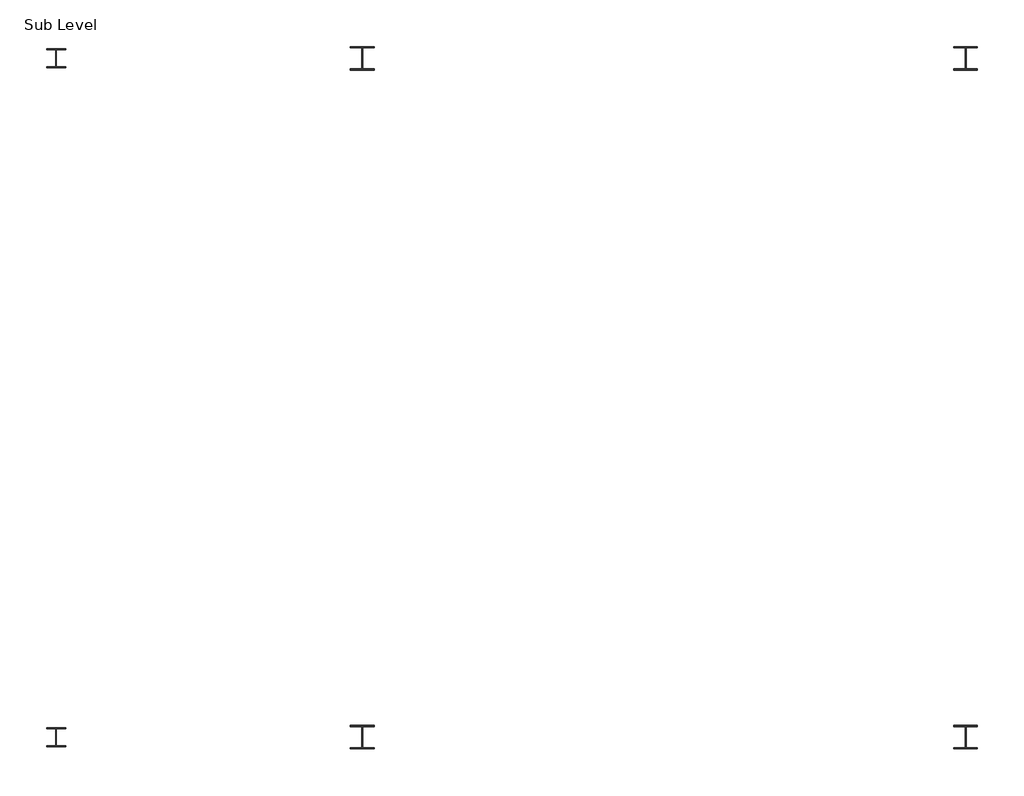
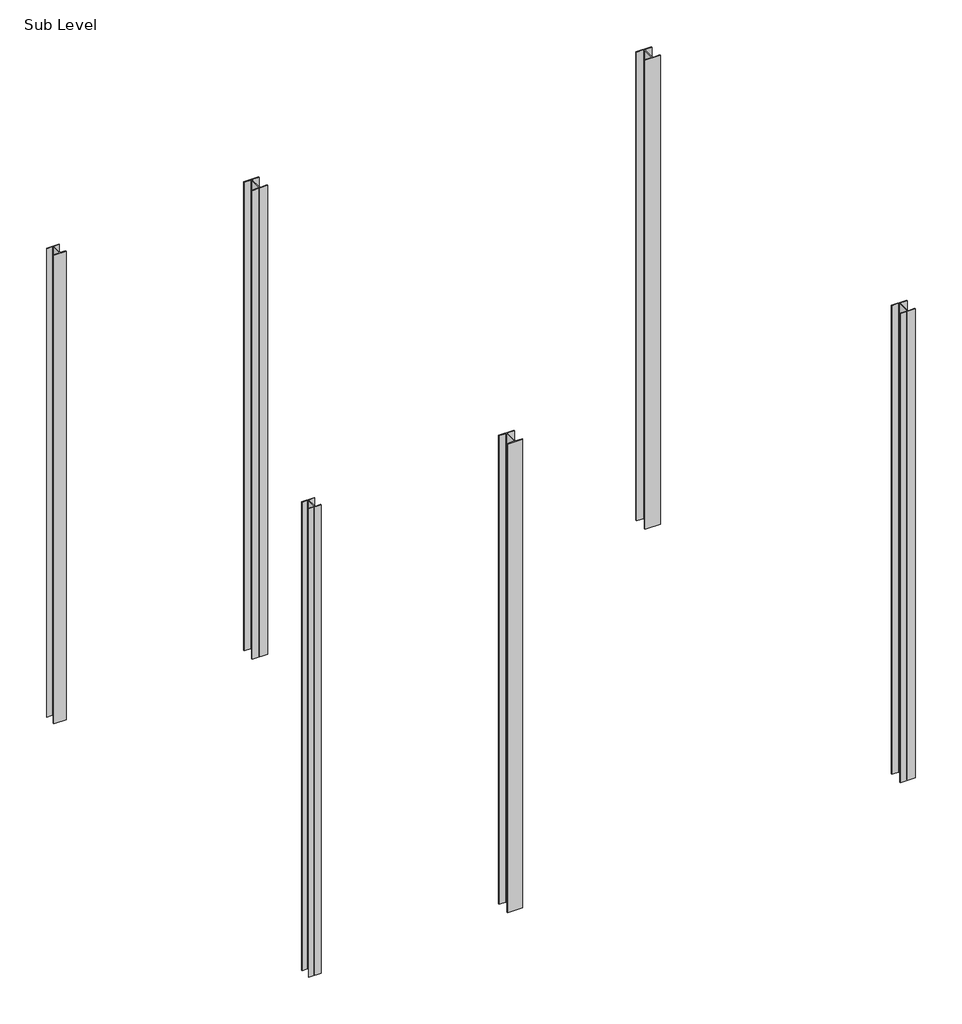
# One storey: 6 columns.
"""IFC4 building model written with IfcOpenShell, lengths in millimetres."""

from ifc_helpers import new_model, si_unit, point, frame, frame_2d, origin, place, context, project, spatial, polyline, circle_curve, trimmed, segment, composite_curve, outline, extrude, element, save

model = new_model("IFC4")

# Units and contexts
model_context = context("Model", 3, world=origin())
ifc_project = project(units=[si_unit("LENGTHUNIT", "METRE", prefix="MILLI")], contexts=[model_context])

# Site, building, storey
site = spatial("IfcSite", under=ifc_project)
building = spatial("IfcBuilding", under=site)
storey = spatial("IfcBuildingStorey", under=building, Name="Sub Level", Elevation=-1000.0)

# Columns
placement = place(None, origin())
element("IfcColumn", 1, ObjectType="UC-Universal Columns-Column : UC203x203x52", at=placement, inside=storey, context=model_context, shape_type="SweptSolid", body=[
    extrude(outline(composite_curve([segment(polyline([(9545.4505584, 29890.6386199), (9545.4505584, 29903.1386199), (9633.4505584, 29903.1386199)]), True, "CONTINUOUS"), segment(trimmed(circle_curve(frame_2d((9633.4505584, 29913.3386199)), 10.2), [point((9633.4505584, 29903.1386199))], [point((9643.6505584, 29913.3386199))], True, "CARTESIAN"), True, "CONTINUOUS"), segment(polyline([(9643.6505584, 29913.3386199), (9643.6505584, 30074.1386199)]), True, "CONTINUOUS"), segment(trimmed(circle_curve(frame_2d((9633.4505584, 30074.1386199)), 10.2), [point((9643.6505584, 30074.1386199))], [point((9633.4505584, 30084.3386199))], True, "CARTESIAN"), True, "CONTINUOUS"), segment(polyline([(9633.4505584, 30084.3386199), (9545.4505584, 30084.3386199), (9545.4505584, 30096.8386199), (9749.7505584, 30096.8386199), (9749.7505584, 30084.3386199), (9661.7505584, 30084.3386199)]), True, "CONTINUOUS"), segment(trimmed(circle_curve(frame_2d((9661.7505584, 30074.1386199)), 10.2), [point((9661.7505584, 30084.3386199))], [point((9651.5505584, 30074.1386199))], True, "CARTESIAN"), True, "CONTINUOUS"), segment(polyline([(9651.5505584, 30074.1386199), (9651.5505584, 29913.3386199)]), True, "CONTINUOUS"), segment(trimmed(circle_curve(frame_2d((9661.7505584, 29913.3386199)), 10.2), [point((9651.5505584, 29913.3386199))], [point((9661.7505584, 29903.1386199))], True, "CARTESIAN"), True, "CONTINUOUS"), segment(polyline([(9661.7505584, 29903.1386199), (9749.7505584, 29903.1386199), (9749.7505584, 29890.6386199), (9545.4505584, 29890.6386199)]), True, "CONTINUOUS")], self_intersect=False)), frame((0.0, 0.0, -1000.0), z_axis=(0.0, 0.0, 1.0), x_axis=(1.0, 0.0, 0.0)), (0.0, 0.0, 1.0), 8200.0),
])
element("IfcColumn", 2, ObjectType="UC-Universal Columns-Column : UC203x203x52", at=placement, inside=storey, context=model_context, shape_type="SweptSolid", body=[
    extrude(outline(composite_curve([segment(polyline([(9545.4505584, 22575.4386199), (9545.4505584, 22587.9386199), (9633.4505584, 22587.9386199)]), True, "CONTINUOUS"), segment(trimmed(circle_curve(frame_2d((9633.4505584, 22598.1386199)), 10.2), [point((9633.4505584, 22587.9386199))], [point((9643.6505584, 22598.1386199))], True, "CARTESIAN"), True, "CONTINUOUS"), segment(polyline([(9643.6505584, 22598.1386199), (9643.6505584, 22758.9386199)]), True, "CONTINUOUS"), segment(trimmed(circle_curve(frame_2d((9633.4505584, 22758.9386199)), 10.2), [point((9643.6505584, 22758.9386199))], [point((9633.4505584, 22769.1386199))], True, "CARTESIAN"), True, "CONTINUOUS"), segment(polyline([(9633.4505584, 22769.1386199), (9545.4505584, 22769.1386199), (9545.4505584, 22781.6386199), (9749.7505584, 22781.6386199), (9749.7505584, 22769.1386199), (9661.7505584, 22769.1386199)]), True, "CONTINUOUS"), segment(trimmed(circle_curve(frame_2d((9661.7505584, 22758.9386199)), 10.2), [point((9661.7505584, 22769.1386199))], [point((9651.5505584, 22758.9386199))], True, "CARTESIAN"), True, "CONTINUOUS"), segment(polyline([(9651.5505584, 22758.9386199), (9651.5505584, 22598.1386199)]), True, "CONTINUOUS"), segment(trimmed(circle_curve(frame_2d((9661.7505584, 22598.1386199)), 10.2), [point((9651.5505584, 22598.1386199))], [point((9661.7505584, 22587.9386199))], True, "CARTESIAN"), True, "CONTINUOUS"), segment(polyline([(9661.7505584, 22587.9386199), (9749.7505584, 22587.9386199), (9749.7505584, 22575.4386199), (9545.4505584, 22575.4386199)]), True, "CONTINUOUS")], self_intersect=False)), frame((0.0, 0.0, -1000.0), z_axis=(0.0, 0.0, 1.0), x_axis=(1.0, 0.0, 0.0)), (0.0, 0.0, 1.0), 8200.0),
])
element("IfcColumn", 3, ObjectType="UC-Universal Columns-Column : UC254x254x73", at=placement, inside=storey, context=model_context, shape_type="SweptSolid", body=[
    extrude(outline(composite_curve([segment(polyline([(12819.5005584, 29866.6886199), (12819.5005584, 29880.8886199), (12929.8005584, 29880.8886199)]), True, "CONTINUOUS"), segment(trimmed(circle_curve(frame_2d((12929.8005584, 29893.5886199)), 12.7), [point((12929.8005584, 29880.8886199))], [point((12942.5005584, 29893.5886199))], True, "CARTESIAN"), True, "CONTINUOUS"), segment(polyline([(12942.5005584, 29893.5886199), (12942.5005584, 30093.8886199)]), True, "CONTINUOUS"), segment(trimmed(circle_curve(frame_2d((12929.8005584, 30093.8886199)), 12.7), [point((12942.5005584, 30093.8886199))], [point((12929.8005584, 30106.5886199))], True, "CARTESIAN"), True, "CONTINUOUS"), segment(polyline([(12929.8005584, 30106.5886199), (12819.5005584, 30106.5886199), (12819.5005584, 30120.7886199), (13074.1005584, 30120.7886199), (13074.1005584, 30106.5886199), (12963.8005584, 30106.5886199)]), True, "CONTINUOUS"), segment(trimmed(circle_curve(frame_2d((12963.8005584, 30093.8886199)), 12.7), [point((12963.8005584, 30106.5886199))], [point((12951.1005584, 30093.8886199))], True, "CARTESIAN"), True, "CONTINUOUS"), segment(polyline([(12951.1005584, 30093.8886199), (12951.1005584, 29893.5886199)]), True, "CONTINUOUS"), segment(trimmed(circle_curve(frame_2d((12963.8005584, 29893.5886199)), 12.7), [point((12951.1005584, 29893.5886199))], [point((12963.8005584, 29880.8886199))], True, "CARTESIAN"), True, "CONTINUOUS"), segment(polyline([(12963.8005584, 29880.8886199), (13074.1005584, 29880.8886199), (13074.1005584, 29866.6886199), (12819.5005584, 29866.6886199)]), True, "CONTINUOUS")], self_intersect=False)), frame((0.0, 0.0, -1000.0), z_axis=(0.0, 0.0, 1.0), x_axis=(1.0, 0.0, 0.0)), (0.0, 0.0, 1.0), 8200.0),
])
element("IfcColumn", 4, ObjectType="UC-Universal Columns-Column : UC254x254x73", at=placement, inside=storey, context=model_context, shape_type="SweptSolid", body=[
    extrude(outline(composite_curve([segment(polyline([(12819.5005584, 22551.4886199), (12819.5005584, 22565.6886199), (12929.8005584, 22565.6886199)]), True, "CONTINUOUS"), segment(trimmed(circle_curve(frame_2d((12929.8005584, 22578.3886199)), 12.7), [point((12929.8005584, 22565.6886199))], [point((12942.5005584, 22578.3886199))], True, "CARTESIAN"), True, "CONTINUOUS"), segment(polyline([(12942.5005584, 22578.3886199), (12942.5005584, 22778.6886199)]), True, "CONTINUOUS"), segment(trimmed(circle_curve(frame_2d((12929.8005584, 22778.6886199)), 12.7), [point((12942.5005584, 22778.6886199))], [point((12929.8005584, 22791.3886199))], True, "CARTESIAN"), True, "CONTINUOUS"), segment(polyline([(12929.8005584, 22791.3886199), (12819.5005584, 22791.3886199), (12819.5005584, 22805.5886199), (13074.1005584, 22805.5886199), (13074.1005584, 22791.3886199), (12963.8005584, 22791.3886199)]), True, "CONTINUOUS"), segment(trimmed(circle_curve(frame_2d((12963.8005584, 22778.6886199)), 12.7), [point((12963.8005584, 22791.3886199))], [point((12951.1005584, 22778.6886199))], True, "CARTESIAN"), True, "CONTINUOUS"), segment(polyline([(12951.1005584, 22778.6886199), (12951.1005584, 22578.3886199)]), True, "CONTINUOUS"), segment(trimmed(circle_curve(frame_2d((12963.8005584, 22578.3886199)), 12.7), [point((12951.1005584, 22578.3886199))], [point((12963.8005584, 22565.6886199))], True, "CARTESIAN"), True, "CONTINUOUS"), segment(polyline([(12963.8005584, 22565.6886199), (13074.1005584, 22565.6886199), (13074.1005584, 22551.4886199), (12819.5005584, 22551.4886199)]), True, "CONTINUOUS")], self_intersect=False)), frame((0.0, 0.0, -1000.0), z_axis=(0.0, 0.0, 1.0), x_axis=(1.0, 0.0, 0.0)), (0.0, 0.0, 1.0), 8200.0),
])
element("IfcColumn", 5, ObjectType="UC-Universal Columns-Column : UC254x254x73", at=placement, inside=storey, context=model_context, shape_type="SweptSolid", body=[
    extrude(outline(composite_curve([segment(polyline([(19321.9005584, 29866.6886199), (19321.9005584, 29880.8886199), (19432.2005584, 29880.8886199)]), True, "CONTINUOUS"), segment(trimmed(circle_curve(frame_2d((19432.2005584, 29893.5886199)), 12.7), [point((19432.2005584, 29880.8886199))], [point((19444.9005584, 29893.5886199))], True, "CARTESIAN"), True, "CONTINUOUS"), segment(polyline([(19444.9005584, 29893.5886199), (19444.9005584, 30093.8886199)]), True, "CONTINUOUS"), segment(trimmed(circle_curve(frame_2d((19432.2005584, 30093.8886199)), 12.7), [point((19444.9005584, 30093.8886199))], [point((19432.2005584, 30106.5886199))], True, "CARTESIAN"), True, "CONTINUOUS"), segment(polyline([(19432.2005584, 30106.5886199), (19321.9005584, 30106.5886199), (19321.9005584, 30120.7886199), (19576.5005584, 30120.7886199), (19576.5005584, 30106.5886199), (19466.2005584, 30106.5886199)]), True, "CONTINUOUS"), segment(trimmed(circle_curve(frame_2d((19466.2005584, 30093.8886199)), 12.7), [point((19466.2005584, 30106.5886199))], [point((19453.5005584, 30093.8886199))], True, "CARTESIAN"), True, "CONTINUOUS"), segment(polyline([(19453.5005584, 30093.8886199), (19453.5005584, 29893.5886199)]), True, "CONTINUOUS"), segment(trimmed(circle_curve(frame_2d((19466.2005584, 29893.5886199)), 12.7), [point((19453.5005584, 29893.5886199))], [point((19466.2005584, 29880.8886199))], True, "CARTESIAN"), True, "CONTINUOUS"), segment(polyline([(19466.2005584, 29880.8886199), (19576.5005584, 29880.8886199), (19576.5005584, 29866.6886199), (19321.9005584, 29866.6886199)]), True, "CONTINUOUS")], self_intersect=False)), frame((0.0, 0.0, -1000.0), z_axis=(0.0, 0.0, 1.0), x_axis=(1.0, 0.0, 0.0)), (0.0, 0.0, 1.0), 8200.0),
])
element("IfcColumn", 6, ObjectType="UC-Universal Columns-Column : UC254x254x73", at=placement, inside=storey, context=model_context, shape_type="SweptSolid", body=[
    extrude(outline(composite_curve([segment(polyline([(19321.9005584, 22551.4886199), (19321.9005584, 22565.6886199), (19432.2005584, 22565.6886199)]), True, "CONTINUOUS"), segment(trimmed(circle_curve(frame_2d((19432.2005584, 22578.3886199)), 12.7), [point((19432.2005584, 22565.6886199))], [point((19444.9005584, 22578.3886199))], True, "CARTESIAN"), True, "CONTINUOUS"), segment(polyline([(19444.9005584, 22578.3886199), (19444.9005584, 22778.6886199)]), True, "CONTINUOUS"), segment(trimmed(circle_curve(frame_2d((19432.2005584, 22778.6886199)), 12.7), [point((19444.9005584, 22778.6886199))], [point((19432.2005584, 22791.3886199))], True, "CARTESIAN"), True, "CONTINUOUS"), segment(polyline([(19432.2005584, 22791.3886199), (19321.9005584, 22791.3886199), (19321.9005584, 22805.5886199), (19576.5005584, 22805.5886199), (19576.5005584, 22791.3886199), (19466.2005584, 22791.3886199)]), True, "CONTINUOUS"), segment(trimmed(circle_curve(frame_2d((19466.2005584, 22778.6886199)), 12.7), [point((19466.2005584, 22791.3886199))], [point((19453.5005584, 22778.6886199))], True, "CARTESIAN"), True, "CONTINUOUS"), segment(polyline([(19453.5005584, 22778.6886199), (19453.5005584, 22578.3886199)]), True, "CONTINUOUS"), segment(trimmed(circle_curve(frame_2d((19466.2005584, 22578.3886199)), 12.7), [point((19453.5005584, 22578.3886199))], [point((19466.2005584, 22565.6886199))], True, "CARTESIAN"), True, "CONTINUOUS"), segment(polyline([(19466.2005584, 22565.6886199), (19576.5005584, 22565.6886199), (19576.5005584, 22551.4886199), (19321.9005584, 22551.4886199)]), True, "CONTINUOUS")], self_intersect=False)), frame((0.0, 0.0, -1000.0), z_axis=(0.0, 0.0, 1.0), x_axis=(1.0, 0.0, 0.0)), (0.0, 0.0, 1.0), 8200.0),
])

save(model, "model.ifc")
